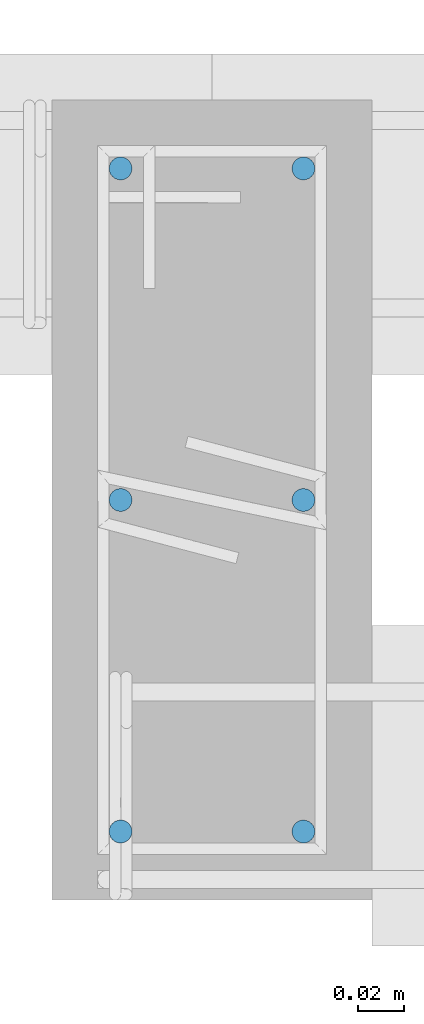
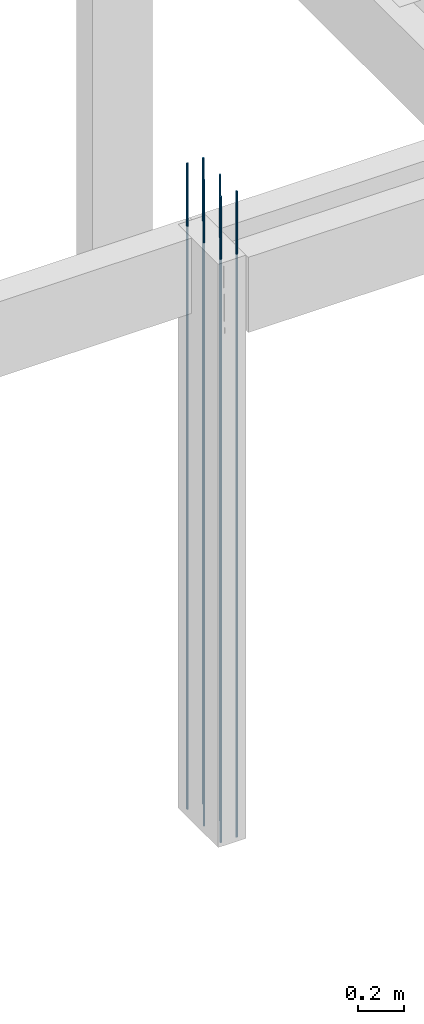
# One storey, part 91 of 236: 6 reinforcing bars.
"""IFC4 building model written with IfcOpenShell, lengths in centimetres."""

from ifc_helpers import new_model, entity, si_unit, derived_unit, frame, origin_with_axes, place, context, project, spatial, element, save


model = new_model("IFC4")

# Units and contexts
model_context = context("Model", 3, precision=1e-05, world=origin_with_axes(), identifier="Body")
ifc_project = project(units=[si_unit("LENGTHUNIT", "METRE", prefix="CENTI"), si_unit("VOLUMEUNIT", "CUBIC_METRE"), si_unit("AREAUNIT", "SQUARE_METRE"), si_unit("POWERUNIT", "WATT"), si_unit("LUMINOUSFLUXUNIT", "LUMEN"), si_unit("ELECTRICCURRENTUNIT", "AMPERE"), si_unit("PRESSUREUNIT", "PASCAL", prefix="KILO"), si_unit("MASSUNIT", "GRAM", prefix="KILO"), si_unit("PLANEANGLEUNIT", "RADIAN"), derived_unit("VOLUMETRICFLOWRATEUNIT", [(si_unit("LENGTHUNIT", "METRE"), 3), (si_unit("TIMEUNIT", "SECOND"), -1)])], contexts=[model_context])

# Site, building, storey
site_placement = place(None, frame((-4000.0, 0.0, 0.0), z_axis=(0.0, 0.0, 1.0), x_axis=(1.0, 0.0, 0.0)))
site = spatial("IfcSite", under=ifc_project, at=site_placement, Name="PADRÃO")
building_placement = place(site_placement, frame((0.0, 0.0, -14.0)))
building = spatial("IfcBuilding", under=site, at=building_placement, Name="CRECHE PRÉ-ESCOLA TIPO 2")
placement_1 = place(building_placement, origin_with_axes())
placement_2 = place(placement_1, frame((0.0, 0.0, 30.0), z_axis=(0.0, 0.0, 1.0), x_axis=(1.0, 0.0, 0.0)))
storey_placement = place(placement_2, frame((0.0, 0.0, 310.0), z_axis=(0.0, 0.0, 1.0), x_axis=(1.0, 0.0, 0.0)))
storey = spatial("IfcBuildingStorey", under=building, at=storey_placement, Name="TERREO", CompositionType="ELEMENT", Elevation=326.0)

# Reinforcing bars
for number, where, z_axis, x_axis, name in (
    (1, (2975.5, 2551.52, 33.3573001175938), (0.0, 0.0, 1.0), (1.0, 0.0, 0.0), "P73 - Longitudinal"),
    (2, (2975.5, 2580.52, 33.3573001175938), (0.0, 0.0, 1.0), (1.0, 0.0, 0.0), "P73 - Longitudinal"),
    (3, (2975.5, 2566.02, 33.3573001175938), (0.0, 0.0, 1.0), (1.0, 0.0, 0.0), "P73 - Longitudinal"),
    (4, (2983.5, 2580.52, 33.3573001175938), (0.0, 0.0, 1.0), (1.0, 0.0, 0.0), "P73 - Longitudinal"),
    (5, (2983.5, 2551.52, 33.3573001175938), (0.0, 0.0, 1.0), (1.0, 0.0, 0.0), "P73 - Longitudinal"),
    (6, (2983.5, 2566.02, 33.3573001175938), (0.0, 0.0, 1.0), (1.0, 0.0, 0.0), "P73 - Longitudinal"),
):
    element("IfcReinforcingBar", number, at=place(storey_placement, frame(where, z_axis=z_axis, x_axis=x_axis)), inside=storey, Name=name, BarLength=0.0, CrossSectionArea=7.853981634e-05, NominalDiameter=1.0, PredefinedType="MAIN", context=model_context, shape_type="AdvancedSweptSolid", body=[
        entity("IfcSweptDiskSolid", entity("IfcCompositeCurve", [entity("IfcCompositeCurveSegment", "CONTINUOUS", True, entity("IfcPolyline", [entity("IfcCartesianPoint", [0.0, 0.0, -343.357300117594]), entity("IfcCartesianPoint", [0.0, 0.0, 0.0])]))], False), 0.5),
    ])

save(model, "model.ifc")
